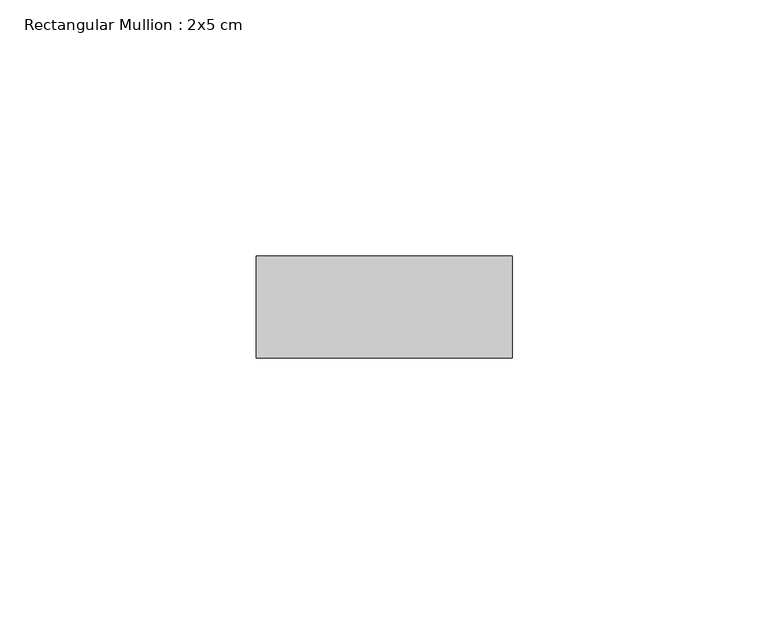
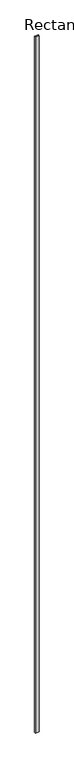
"""IFC4 building model written with IfcOpenShell, lengths in millimetres: member geometry, Rectangular Mullion : 2x5 cm."""

from ifc_helpers import new_model, si_unit, frame, origin, place, context, project, spatial, polyline, outline, extrude, source, transform, mapped, element, save


def rectangular_mullion_2x5_cm_3534ef3e(model_context):
    return source(origin(), model_context, "Body", "SweptSolid", [
        extrude(outline(polyline([(50.0, 20.0), (50.0, 0.0), (0.0, 0.0), (0.0, 20.0), (50.0, 20.0)])), frame((0.0, 0.0, -10048.1158977), z_axis=(0.0, 0.0, 1.0), x_axis=(1.0, 0.0, 0.0)), (0.0, 0.0, 1.0), 10048.1158977),
    ])


if __name__ == "__main__":
    model = new_model("IFC4")
    model_context = context("Model", 3, world=origin())
    ifc_project = project(units=[si_unit("LENGTHUNIT", "METRE", prefix="MILLI")], contexts=[model_context])
    site = spatial("IfcSite", under=ifc_project)
    building = spatial("IfcBuilding", under=site)
    placement = place(None, origin())
    rectangular_mullion_2x5_cm_shape = rectangular_mullion_2x5_cm_3534ef3e(model_context)
    element("IfcMember", 1, ObjectType="Rectangular Mullion : 2x5 cm", at=placement, inside=building, context=model_context, shape_type="MappedRepresentation", body=[
        mapped(rectangular_mullion_2x5_cm_shape, transform((0.0, 0.0, 0.0), x_axis=(1.0, 0.0, 0.0), y_axis=(0.0, 1.0, 0.0), z_axis=(0.0, 0.0, 1.0))),
    ])
    save(model, "model.ifc")
